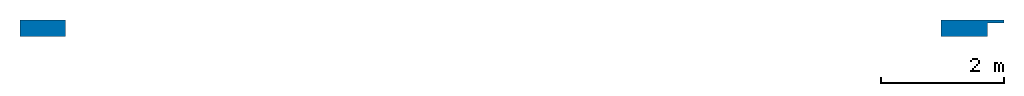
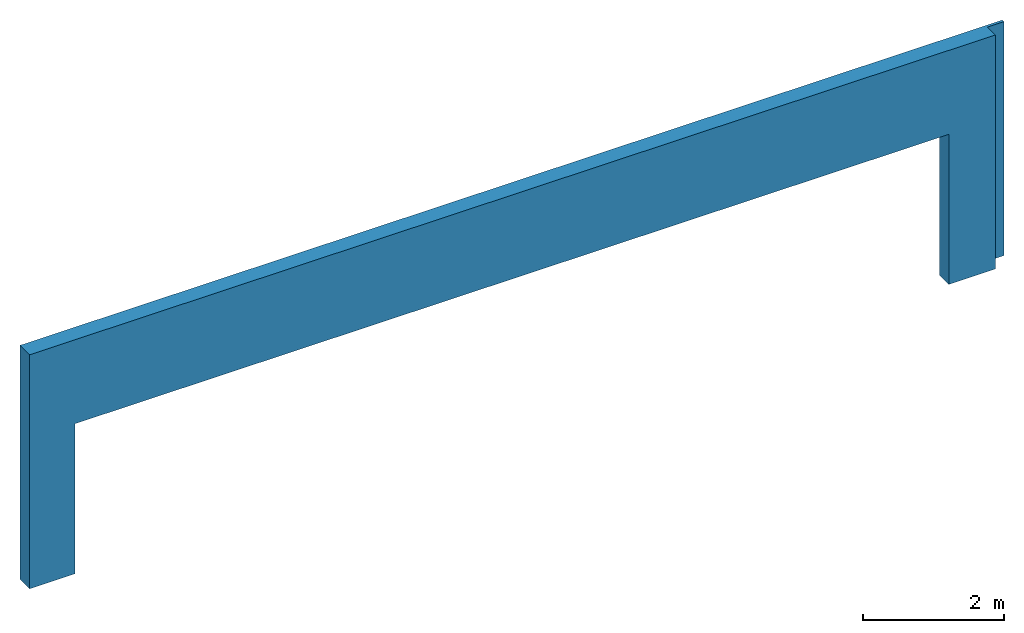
# One storey: 1 wall, 1 opening.
"""IFC2X3 building model written with IfcOpenShell, lengths in centimetres."""

from ifc_helpers import new_model, entity, si_unit, converted_unit, derived_unit, direction, frame, frame_2d, origin, place, context, subcontext, project, spatial, polyline, rectangle, extrude, clip, bounded_halfspace, material, layer, layer_set, layer_usage, type_object, element, save


model = new_model("IFC2X3")

# Units and contexts
model_context = context("Model", 3, precision=0.001, world=origin(), true_north=direction((6.12303176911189e-17, 1.0)))
body_context = subcontext(model_context, "Body", "Model", "MODEL_VIEW")
ifc_project = project(units=[si_unit("LENGTHUNIT", "METRE", prefix="CENTI"), si_unit("AREAUNIT", "SQUARE_METRE"), si_unit("VOLUMEUNIT", "CUBIC_METRE"), converted_unit("PLANEANGLEUNIT", "DEGREE", entity("IfcRatioMeasure", 0.0174532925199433), si_unit("PLANEANGLEUNIT", "RADIAN"), dimensions=[0, 0, 0, 0, 0, 0, 0]), si_unit("MASSUNIT", "GRAM", prefix="KILO"), si_unit("TIMEUNIT", "SECOND"), si_unit("FREQUENCYUNIT", "HERTZ"), si_unit("THERMODYNAMICTEMPERATUREUNIT", "DEGREE_CELSIUS"), derived_unit("THERMALTRANSMITTANCEUNIT", [(si_unit("MASSUNIT", "GRAM", prefix="KILO"), 1), (si_unit("THERMODYNAMICTEMPERATUREUNIT", "KELVIN"), -1), (si_unit("TIMEUNIT", "SECOND"), -3)]), derived_unit("VOLUMETRICFLOWRATEUNIT", [(si_unit("LENGTHUNIT", "METRE"), 3), (si_unit("TIMEUNIT", "SECOND"), -1)]), si_unit("ELECTRICCURRENTUNIT", "AMPERE"), si_unit("ELECTRICVOLTAGEUNIT", "VOLT"), si_unit("POWERUNIT", "WATT"), si_unit("FORCEUNIT", "NEWTON", prefix="KILO"), si_unit("ILLUMINANCEUNIT", "LUX"), si_unit("LUMINOUSFLUXUNIT", "LUMEN"), si_unit("LUMINOUSINTENSITYUNIT", "CANDELA"), derived_unit("USERDEFINED", [(si_unit("MASSUNIT", "GRAM", prefix="KILO"), -1), (si_unit("LENGTHUNIT", "METRE"), -2), (si_unit("TIMEUNIT", "SECOND"), 3), (si_unit("LUMINOUSFLUXUNIT", "LUMEN"), 1)]), derived_unit("LINEARVELOCITYUNIT", [(si_unit("LENGTHUNIT", "METRE"), 1), (si_unit("TIMEUNIT", "SECOND"), -1)]), si_unit("PRESSUREUNIT", "PASCAL"), derived_unit("USERDEFINED", [(si_unit("LENGTHUNIT", "METRE"), -2), (si_unit("MASSUNIT", "GRAM", prefix="KILO"), 1), (si_unit("TIMEUNIT", "SECOND"), -2)])], contexts=[model_context])

# Site, building, storey
site_placement = place(None, frame((8.62739174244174, -249.285249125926, 0.0)))
site = spatial("IfcSite", under=ifc_project, at=site_placement, Name="Default", CompositionType="ELEMENT")
building_placement = place(site_placement, origin())
building = spatial("IfcBuilding", under=site, at=building_placement, CompositionType="ELEMENT")
storey_placement = place(building_placement, frame((0.0, 0.0, 451.0)))
storey = spatial("IfcBuildingStorey", under=building, at=storey_placement, Name="Acrotère EXT1", CompositionType="ELEMENT", Elevation=451.0)

# Wall, opening
ifc_material_1 = material(Name="Tôle/Doublage(PROJET)")
ifc_layer_1 = layer(ifc_material_1, 4.0)
ifc_material_2 = material(Name="Laine minérale")
ifc_layer_2 = layer(ifc_material_2, 22.0)
ifc_layer_3 = layer(ifc_material_1, 1.0)
ifc_layer_set = layer_set([ifc_layer_1, ifc_layer_2, ifc_layer_3], Name="Mur de base:MET PROJET 4 + ISO 23 + MET 1")
ifc_layer_usage = layer_usage(ifc_layer_set, "AXIS2", "NEGATIVE", 13.5)
wall_type = type_object("IfcWallType", Name="Mur de base:MET PROJET 4 + ISO 23 + MET 1", PredefinedType="NOTDEFINED")
wall_placement = place(storey_placement, frame((1476.9048277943, 7575.47694586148, 0.0)))
wall = element("IfcWallStandardCase", 1, at=wall_placement, inside=storey, type_object=wall_type, material=ifc_layer_usage, Name="Mur de base:MET PROJET 4 + ISO 23 + MET 1", ObjectType="Mur de base:MET PROJET 4 + ISO 23 + MET 1", context=body_context, shape_type="Clipping", body=[
    clip(clip(extrude(rectangle(XDim=1604.00000000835, YDim=27.0000000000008, at=frame_2d((802.000000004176, -2.22044604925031e-14), x_axis=(-1.0, 0.0))), origin(), (0.0, 0.0, 1.0), 404.0), bounded_halfspace(frame((1577.0, 9.0032622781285, 0.0), z_axis=(-1.0, 0.0, 0.0), x_axis=(0.0, -1.0, 0.0)), True, frame((1577.0, 9.0032622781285, 0.0), z_axis=(-1.0, 0.0, 0.0), x_axis=(0.0, -1.0, 0.0)), polyline([(0.0, 0.0), (21.5032622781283, 0.0), (22.503262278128, 0.0), (22.503262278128, 404.0), (0.0, 404.0), (0.0, 0.0)]))), bounded_halfspace(frame((1577.0, 9.0032622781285, 404.0), z_axis=(0.0, 1.0, 0.0), x_axis=(-1.0, 0.0, 0.0)), True, frame((1577.0, 9.0032622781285, 404.0), z_axis=(0.0, 1.0, 0.0), x_axis=(-1.0, 0.0, 0.0)), polyline([(0.0, 0.0), (-27.0, 0.0), (-27.0, -404.0), (0.0, -404.0), (0.0, 0.0)]))),
])
opening_placement = place(wall_placement, origin())
element("IfcOpeningElement", 2, at=opening_placement, cuts=wall, Name="Mur de base:MET PROJET 4 + ISO 23 + MET 1", ObjectType="Opening", context=body_context, shape_type="SweptSolid", body=[
    extrude(rectangle(XDim=425.000000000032, YDim=1427.0, at=frame_2d((-1.13686837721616e-13, 0.0), x_axis=(0.0, 1.0))), frame((787.500000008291, -28.7399999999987, 46.4999999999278), z_axis=(0.0, 1.0, 0.0), x_axis=(-1.0, 0.0, 0.0)), (0.0, 0.0, 1.0), 57.4799999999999),
])

save(model, "model.ifc")
